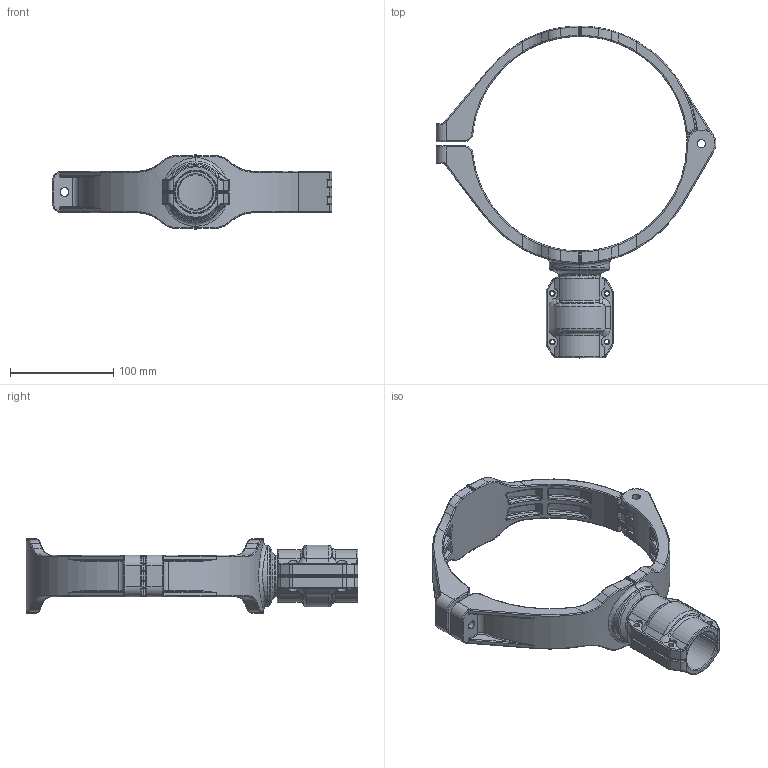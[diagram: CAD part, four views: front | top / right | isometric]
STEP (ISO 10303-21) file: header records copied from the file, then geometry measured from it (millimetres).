
FILE_DESCRIPTION((''),'2;1');
FILE_NAME('2015A41099_ASM_5_ASM','2017-05-15T',('Administrator'),(''),'PRO/ENGINEER BY PARAMETRIC TECHNOLOGY CORPORATION, 2009360','PRO/ENGINEER BY PARAMETRIC TECHNOLOGY CORPORATION, 2009360','');
FILE_SCHEMA(('AUTOMOTIVE_DESIGN_CC2 { 1 2 10303 214 -1 1 5 2 }'));
Length unit declared in the file: millimetre
Products named in the file (8): MANIFOLD_SOLID_BREP_96_8_1; MANIFOLD_SOLID_BREP_97_4_1; 2015A41000_ASM_4_ASM_1_ASM; 2015A41000_ASM_ASM_1_ASM; 201540020001_1; 201540020000_1; 2015400200_ASM_1_ASM; 2015A41099_ASM_5_ASM
Assembly tree (7 placements, depth 4):
  2015A41099_ASM_5_ASM
    2015A41000_ASM_ASM_1_ASM
      2015A41000_ASM_4_ASM_1_ASM
        MANIFOLD_SOLID_BREP_96_8_1
        MANIFOLD_SOLID_BREP_97_4_1
    2015400200_ASM_1_ASM
      201540020001_1
      201540020000_1
Bounding box: 271.11 x 321.5 x 72.54 mm (x, y, z)
Volume: 479002.5 mm3; surface area: 147621.5 mm2
Topology: 4 solids, 4 shells, 1002 faces, 2428 edges, 1350 vertices
Faces by surface type: cylinder 340, bspline 220, torus 212, plane 146, sphere 72, cone 12
Entity records: 51933 total; most frequent: CARTESIAN_POINT 23099, ORIENTED_EDGE 4652, DIRECTION 4468, PRESENTATION_STYLE_ASSIGNMENT 2330, STYLED_ITEM 2330, CURVE_STYLE 2326, EDGE_CURVE 2326, AXIS2_PLACEMENT_3D 1935
